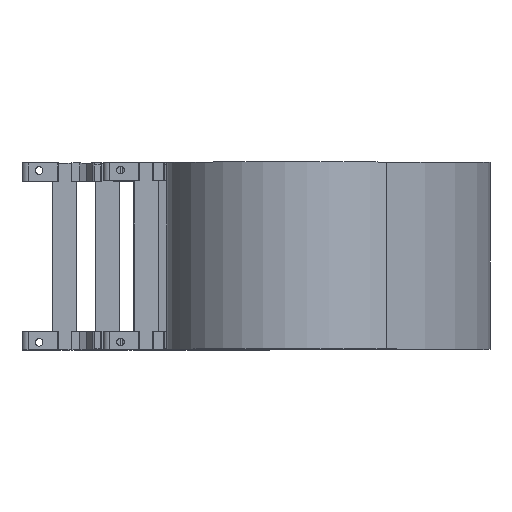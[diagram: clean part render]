
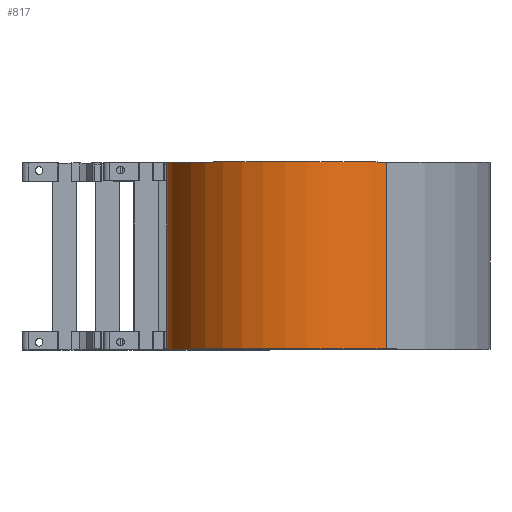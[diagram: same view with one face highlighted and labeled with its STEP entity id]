
A CAD part, top view. The second image highlights one B-rep face of the part: STEP entity #817.
In plain terms, the highlighted cylindrical face has radius 85 mm (diameter 170 mm), a partial arc.
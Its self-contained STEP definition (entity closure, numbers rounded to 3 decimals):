
#817 = ADVANCED_FACE( '', ( #1912 ), #1913, .T. );
#1912 = FACE_OUTER_BOUND( '', #3338, .T. );
#1913 = CYLINDRICAL_SURFACE( '', #3339, 85. );
#3338 = EDGE_LOOP( '', ( #5609, #5610, #5611, #5612 ) );
#3339 = AXIS2_PLACEMENT_3D( '', #5613, #5614, #5615 );
#5609 = ORIENTED_EDGE( '', *, *, #9622, .T. );
#5610 = ORIENTED_EDGE( '', *, *, #9623, .F. );
#5611 = ORIENTED_EDGE( '', *, *, #9624, .F. );
#5612 = ORIENTED_EDGE( '', *, *, #9092, .T. );
#5613 = CARTESIAN_POINT( '', ( 110.466, 62., 108.73 ) );
#5614 = DIRECTION( '', ( 0., 1., 0. ) );
#5615 = DIRECTION( '', ( 0., 0., -1. ) );
#9092 = EDGE_CURVE( '', #11079, #11077, #11080, .T. );
#9622 = EDGE_CURVE( '', #11077, #11964, #11965, .T. );
#9623 = EDGE_CURVE( '', #11966, #11964, #11967, .T. );
#9624 = EDGE_CURVE( '', #11079, #11966, #11968, .T. );
#11077 = VERTEX_POINT( '', #13924 );
#11079 = VERTEX_POINT( '', #13926 );
#11080 = LINE( '', #13927, #13928 );
#11964 = VERTEX_POINT( '', #15183 );
#11965 = CIRCLE( '', #15184, 85. );
#11966 = VERTEX_POINT( '', #15185 );
#11967 = LINE( '', #15186, #15187 );
#11968 = CIRCLE( '', #15188, 85. );
#13924 = CARTESIAN_POINT( '', ( 49.888, -62., 49.104 ) );
#13926 = CARTESIAN_POINT( '', ( 49.888, 62., 49.104 ) );
#13927 = CARTESIAN_POINT( '', ( 49.888, 62., 49.104 ) );
#13928 = VECTOR( '', #17346, 1000. );
#15183 = CARTESIAN_POINT( '', ( 171.045, -62., 168.356 ) );
#15184 = AXIS2_PLACEMENT_3D( '', #17928, #17929, #17930 );
#15185 = CARTESIAN_POINT( '', ( 171.045, 62., 168.356 ) );
#15186 = CARTESIAN_POINT( '', ( 171.045, 62., 168.356 ) );
#15187 = VECTOR( '', #17931, 1000. );
#15188 = AXIS2_PLACEMENT_3D( '', #17932, #17933, #17934 );
#17346 = DIRECTION( '', ( 0., -1., 0. ) );
#17928 = CARTESIAN_POINT( '', ( 110.466, -62., 108.73 ) );
#17929 = DIRECTION( '', ( 0., 1., 0. ) );
#17930 = DIRECTION( '', ( 1., 0., 0. ) );
#17931 = DIRECTION( '', ( 0., -1., 0. ) );
#17932 = CARTESIAN_POINT( '', ( 110.466, 62., 108.73 ) );
#17933 = DIRECTION( '', ( 0., 1., 0. ) );
#17934 = DIRECTION( '', ( 1., 0., 0. ) );
